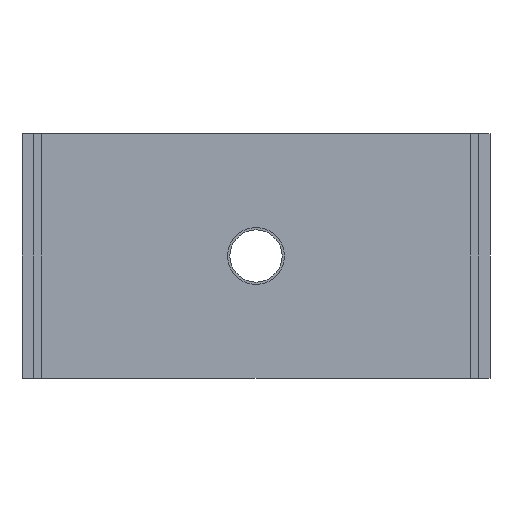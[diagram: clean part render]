
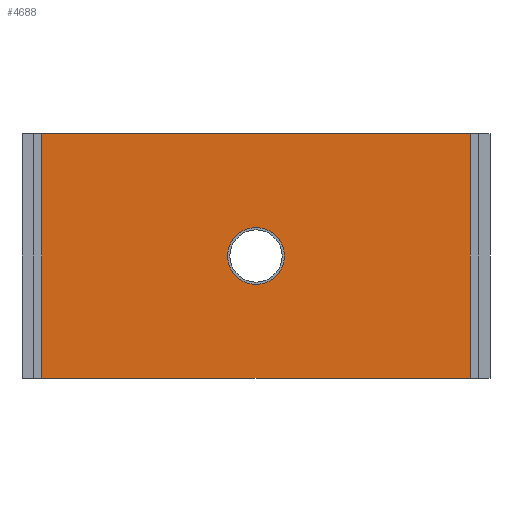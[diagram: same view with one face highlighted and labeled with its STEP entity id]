
A CAD part, front view. The second image highlights one B-rep face of the part: STEP entity #4688.
In plain terms, the highlighted planar face has unit normal (0, -1, 0).
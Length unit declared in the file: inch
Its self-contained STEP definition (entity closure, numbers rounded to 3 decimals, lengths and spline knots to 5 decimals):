
#4010=CARTESIAN_POINT('',(-15.09843,-5.43351,8.60236));
#4011=VERTEX_POINT('',#4010);
#4018=CARTESIAN_POINT('',(15.09843,-5.43351,8.60236));
#4019=VERTEX_POINT('',#4018);
#4020=CARTESIAN_POINT('',(15.09843,-5.43351,8.60236));
#4021=DIRECTION('',(-1.0,0.0,0.0));
#4022=VECTOR('',#4021,30.19685);
#4023=LINE('',#4020,#4022);
#4024=EDGE_CURVE('',#4019,#4011,#4023,.T.);
#4182=CARTESIAN_POINT('',(-2.0,-5.43351,0.));
#4183=VERTEX_POINT('',#4182);
#4184=CARTESIAN_POINT('',(0.0,-5.43351,0.0));
#4185=DIRECTION('',(0.0,1.0,0.0));
#4186=DIRECTION('',(1.0,0.0,0.0));
#4187=AXIS2_PLACEMENT_3D('',#4184,#4185,#4186);
#4188=CIRCLE('',#4187,2.0);
#4189=EDGE_CURVE('',#4183,#4183,#4188,.T.);
#4644=CARTESIAN_POINT('',(15.09843,-5.43351,-8.60236));
#4645=VERTEX_POINT('',#4644);
#4646=CARTESIAN_POINT('',(15.09843,-5.43351,-8.60236));
#4647=DIRECTION('',(0.0,0.0,1.0));
#4648=VECTOR('',#4647,17.20472);
#4649=LINE('',#4646,#4648);
#4650=EDGE_CURVE('',#4645,#4019,#4649,.T.);
#4662=CARTESIAN_POINT('',(15.09843,-5.43351,0.0));
#4663=DIRECTION('',(0.0,-1.0,0.0));
#4664=DIRECTION('',(0.0,0.0,-1.0));
#4665=AXIS2_PLACEMENT_3D('',#4662,#4663,#4664);
#4666=PLANE('',#4665);
#4667=ORIENTED_EDGE('',*,*,#4024,.T.);
#4668=CARTESIAN_POINT('',(-15.09843,-5.43351,-8.60236));
#4669=VERTEX_POINT('',#4668);
#4670=CARTESIAN_POINT('',(-15.09843,-5.43351,-8.60236));
#4671=DIRECTION('',(0.0,0.0,1.0));
#4672=VECTOR('',#4671,17.20472);
#4673=LINE('',#4670,#4672);
#4674=EDGE_CURVE('',#4669,#4011,#4673,.T.);
#4675=ORIENTED_EDGE('',*,*,#4674,.F.);
#4676=CARTESIAN_POINT('',(-15.09843,-5.43351,-8.60236));
#4677=DIRECTION('',(1.0,0.0,0.0));
#4678=VECTOR('',#4677,30.19685);
#4679=LINE('',#4676,#4678);
#4680=EDGE_CURVE('',#4669,#4645,#4679,.T.);
#4681=ORIENTED_EDGE('',*,*,#4680,.T.);
#4682=ORIENTED_EDGE('',*,*,#4650,.T.);
#4683=EDGE_LOOP('',(#4667,#4675,#4681,#4682));
#4684=FACE_OUTER_BOUND('',#4683,.T.);
#4685=ORIENTED_EDGE('',*,*,#4189,.T.);
#4686=EDGE_LOOP('',(#4685));
#4687=FACE_BOUND('',#4686,.T.);
#4688=ADVANCED_FACE('',(#4684,#4687),#4666,.T.);
